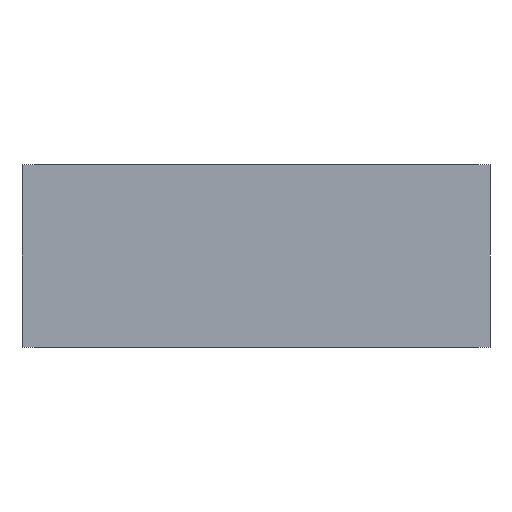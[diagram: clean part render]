
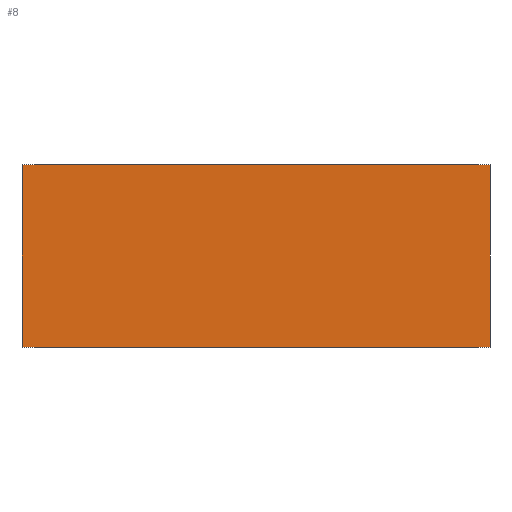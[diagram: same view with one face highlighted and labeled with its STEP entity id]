
A CAD part, front view. The second image highlights one B-rep face of the part: STEP entity #8.
In plain terms, the highlighted planar face has unit normal (0, -1, 0).
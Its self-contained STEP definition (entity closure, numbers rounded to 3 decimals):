
#8 = ADVANCED_FACE ( 'NONE', ( #491 ), #159, .F. ) ;
#34 = EDGE_CURVE ( 'NONE', #127, #118, #467, .T. ) ;
#54 = EDGE_CURVE ( 'NONE', #117, #135, #458, .T. ) ;
#63 = EDGE_CURVE ( 'NONE', #118, #135, #581, .T. ) ;
#84 = AXIS2_PLACEMENT_3D ( 'NONE', #160, #169, #170 ) ;
#88 = EDGE_CURVE ( 'NONE', #127, #117, #592, .T. ) ;
#117 = VERTEX_POINT ( 'NONE', #309 ) ;
#118 = VERTEX_POINT ( 'NONE', #316 ) ;
#127 = VERTEX_POINT ( 'NONE', #325 ) ;
#135 = VERTEX_POINT ( 'NONE', #333 ) ;
#159 = PLANE ( 'NONE',  #84 ) ;
#160 = CARTESIAN_POINT ( 'NONE',  ( -154., 0., 120. ) ) ;
#169 = DIRECTION ( 'NONE',  ( 0., 1., 0. ) ) ;
#170 = DIRECTION ( 'NONE',  ( -1., 0., 0. ) ) ;
#221 = CARTESIAN_POINT ( 'NONE',  ( -154., 0., 120. ) ) ;
#226 = DIRECTION ( 'NONE',  ( 1., 0., 0. ) ) ;
#241 = CARTESIAN_POINT ( 'NONE',  ( -154., 0., 0. ) ) ;
#246 = DIRECTION ( 'NONE',  ( 1., 0., 0. ) ) ;
#259 = CARTESIAN_POINT ( 'NONE',  ( 154., 0., 120. ) ) ;
#260 = DIRECTION ( 'NONE',  ( 0., 0., -1. ) ) ;
#294 = CARTESIAN_POINT ( 'NONE',  ( -154., 0., 120. ) ) ;
#295 = DIRECTION ( 'NONE',  ( 0., 0., -1. ) ) ;
#309 = CARTESIAN_POINT ( 'NONE',  ( -154., 0., 0. ) ) ;
#316 = CARTESIAN_POINT ( 'NONE',  ( 154., 0., 120. ) ) ;
#325 = CARTESIAN_POINT ( 'NONE',  ( -154., 0., 120. ) ) ;
#333 = CARTESIAN_POINT ( 'NONE',  ( 154., 0., 0. ) ) ;
#366 = VECTOR ( 'NONE', #246, 1000. ) ;
#381 = EDGE_LOOP ( 'NONE', ( #437, #438, #508, #485 ) ) ;
#426 = VECTOR ( 'NONE', #226, 1000. ) ;
#437 = ORIENTED_EDGE ( 'NONE', *, *, #54, .T. ) ;
#438 = ORIENTED_EDGE ( 'NONE', *, *, #63, .F. ) ;
#458 = LINE ( 'NONE', #241, #366 ) ;
#467 = LINE ( 'NONE', #221, #426 ) ;
#485 = ORIENTED_EDGE ( 'NONE', *, *, #88, .T. ) ;
#491 = FACE_OUTER_BOUND ( 'NONE', #381, .T. ) ;
#508 = ORIENTED_EDGE ( 'NONE', *, *, #34, .F. ) ;
#578 = VECTOR ( 'NONE', #260, 1000. ) ;
#581 = LINE ( 'NONE', #259, #578 ) ;
#592 = LINE ( 'NONE', #294, #593 ) ;
#593 = VECTOR ( 'NONE', #295, 1000. ) ;
